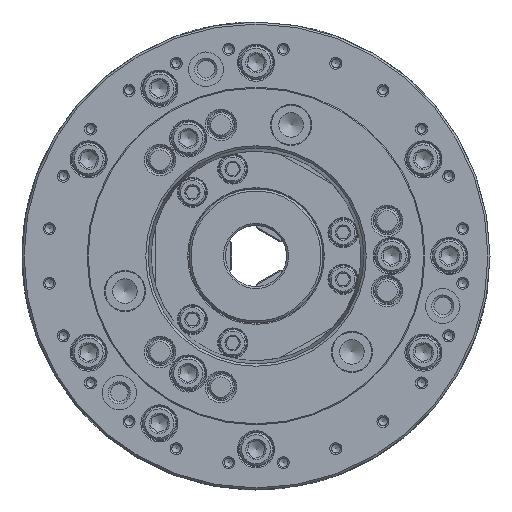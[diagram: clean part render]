
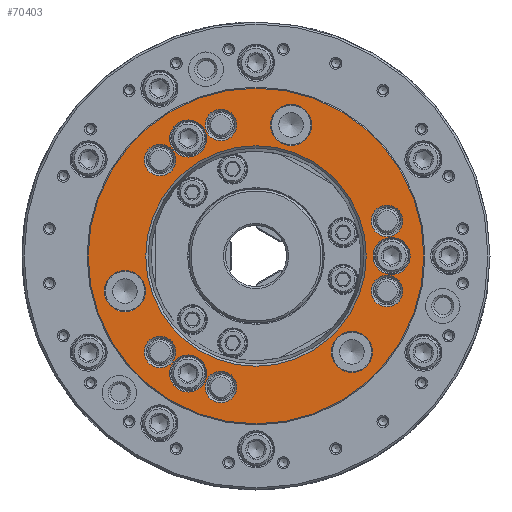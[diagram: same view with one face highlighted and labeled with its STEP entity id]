
A CAD part, left-side view. The second image highlights one B-rep face of the part: STEP entity #70403.
In plain terms, the highlighted planar face has unit normal (-1, 0, 0).
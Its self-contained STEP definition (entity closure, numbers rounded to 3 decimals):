
#149 = EDGE_LOOP ( 'NONE', ( #28190 ) ) ;
#663 = AXIS2_PLACEMENT_3D ( 'NONE', #32393, #72827, #65329 ) ;
#1171 = CIRCLE ( 'NONE', #85712, 7.75 ) ;
#2170 = CARTESIAN_POINT ( 'NONE',  ( -110., 47.146, 54.896 ) ) ;
#4060 = CARTESIAN_POINT ( 'NONE',  ( -110., 0., 0. ) ) ;
#4176 = ORIENTED_EDGE ( 'NONE', *, *, #24271, .F. ) ;
#4582 = DIRECTION ( 'NONE',  ( -1., 0., 0. ) ) ;
#5377 = FACE_BOUND ( 'NONE', #57115, .T. ) ;
#5971 = EDGE_LOOP ( 'NONE', ( #76017 ) ) ;
#7953 = AXIS2_PLACEMENT_3D ( 'NONE', #50863, #52983, #92912 ) ;
#8324 = VERTEX_POINT ( 'NONE', #66096 ) ;
#9066 = ORIENTED_EDGE ( 'NONE', *, *, #36291, .F. ) ;
#9165 = DIRECTION ( 'NONE',  ( -1., 0., 0. ) ) ;
#9303 = ORIENTED_EDGE ( 'NONE', *, *, #51223, .T. ) ;
#10959 = EDGE_CURVE ( 'NONE', #99822, #99822, #85960, .T. ) ;
#11854 = AXIS2_PLACEMENT_3D ( 'NONE', #57243, #9165, #32422 ) ;
#13149 = CARTESIAN_POINT ( 'NONE',  ( -110., 47.146, 47.146 ) ) ;
#13548 = EDGE_LOOP ( 'NONE', ( #4176 ) ) ;
#14035 = FACE_BOUND ( 'NONE', #73103, .T. ) ;
#14724 = CARTESIAN_POINT ( 'NONE',  ( -110., -47.146, -47.146 ) ) ;
#14947 = CARTESIAN_POINT ( 'NONE',  ( -110., -66.675, 0. ) ) ;
#15512 = CIRCLE ( 'NONE', #25854, 10.13 ) ;
#15794 = EDGE_CURVE ( 'NONE', #19863, #19863, #91823, .T. ) ;
#17203 = AXIS2_PLACEMENT_3D ( 'NONE', #101717, #69800, #35349 ) ;
#18351 = EDGE_LOOP ( 'NONE', ( #67990 ) ) ;
#19041 = EDGE_CURVE ( 'NONE', #63552, #63552, #92380, .T. ) ;
#19374 = ORIENTED_EDGE ( 'NONE', *, *, #19041, .T. ) ;
#19493 = AXIS2_PLACEMENT_3D ( 'NONE', #100836, #26887, #59813 ) ;
#19863 = VERTEX_POINT ( 'NONE', #60386 ) ;
#20065 = AXIS2_PLACEMENT_3D ( 'NONE', #13149, #21784, #87605 ) ;
#20635 = CIRCLE ( 'NONE', #72314, 7.75 ) ;
#21784 = DIRECTION ( 'NONE',  ( -1., 0., 0. ) ) ;
#23035 = EDGE_CURVE ( 'NONE', #70554, #70554, #106897, .T. ) ;
#23541 = CIRCLE ( 'NONE', #20065, 7.75 ) ;
#24271 = EDGE_CURVE ( 'NONE', #104545, #104545, #20635, .T. ) ;
#25854 = AXIS2_PLACEMENT_3D ( 'NONE', #55037, #94983, #70122 ) ;
#26887 = DIRECTION ( 'NONE',  ( -1., 0., 0. ) ) ;
#27060 = CIRCLE ( 'NONE', #68397, 82.5 ) ;
#27186 = CIRCLE ( 'NONE', #47947, 10.13 ) ;
#28149 = CIRCLE ( 'NONE', #19493, 7.75 ) ;
#28190 = ORIENTED_EDGE ( 'NONE', *, *, #10959, .F. ) ;
#29569 = CARTESIAN_POINT ( 'NONE',  ( -110., 47.146, -39.396 ) ) ;
#29708 = CARTESIAN_POINT ( 'NONE',  ( -110., 64.403, -27.387 ) ) ;
#30268 = EDGE_LOOP ( 'NONE', ( #95761 ) ) ;
#30961 = EDGE_LOOP ( 'NONE', ( #73667 ) ) ;
#32393 = CARTESIAN_POINT ( 'NONE',  ( -110., 82.5, 0. ) ) ;
#32422 = DIRECTION ( 'NONE',  ( 0., 0., 1. ) ) ;
#33311 = EDGE_CURVE ( 'NONE', #94208, #94208, #1171, .T. ) ;
#33465 = EDGE_CURVE ( 'NONE', #51085, #51085, #27186, .T. ) ;
#33645 = AXIS2_PLACEMENT_3D ( 'NONE', #14947, #47905, #106714 ) ;
#34292 = EDGE_LOOP ( 'NONE', ( #101612 ) ) ;
#35349 = DIRECTION ( 'NONE',  ( 0., 0., 1. ) ) ;
#35421 = VERTEX_POINT ( 'NONE', #76368 ) ;
#36291 = EDGE_CURVE ( 'NONE', #35421, #35421, #71987, .T. ) ;
#36340 = DIRECTION ( 'NONE',  ( 0., 0., 1. ) ) ;
#36377 = DIRECTION ( 'NONE',  ( 0., 0., 1. ) ) ;
#37950 = CARTESIAN_POINT ( 'NONE',  ( -110., -64.403, -17.257 ) ) ;
#38897 = FACE_BOUND ( 'NONE', #77751, .T. ) ;
#39391 = CARTESIAN_POINT ( 'NONE',  ( -110., 33.337, -57.742 ) ) ;
#39978 = FACE_BOUND ( 'NONE', #30961, .T. ) ;
#40517 = FACE_BOUND ( 'NONE', #86831, .T. ) ;
#43529 = CARTESIAN_POINT ( 'NONE',  ( -110., -55.919, -42.081 ) ) ;
#45309 = DIRECTION ( 'NONE',  ( 0., -0.866, 0.5 ) ) ;
#46802 = EDGE_LOOP ( 'NONE', ( #19374 ) ) ;
#46901 = ORIENTED_EDGE ( 'NONE', *, *, #102659, .F. ) ;
#47532 = FACE_BOUND ( 'NONE', #149, .T. ) ;
#47905 = DIRECTION ( 'NONE',  ( -1., 0., 0. ) ) ;
#47907 = CARTESIAN_POINT ( 'NONE',  ( -110., -8.484, 69.468 ) ) ;
#47947 = AXIS2_PLACEMENT_3D ( 'NONE', #14724, #83723, #45309 ) ;
#50863 = CARTESIAN_POINT ( 'NONE',  ( -110., -17.257, 64.403 ) ) ;
#51085 = VERTEX_POINT ( 'NONE', #43529 ) ;
#51223 = EDGE_CURVE ( 'NONE', #8324, #8324, #27060, .T. ) ;
#52165 = DIRECTION ( 'NONE',  ( 0., 0., 1. ) ) ;
#52983 = DIRECTION ( 'NONE',  ( 1., 0., 0. ) ) ;
#53814 = AXIS2_PLACEMENT_3D ( 'NONE', #37950, #60642, #36340 ) ;
#54635 = EDGE_LOOP ( 'NONE', ( #9303 ) ) ;
#55037 = CARTESIAN_POINT ( 'NONE',  ( -110., 64.403, -17.257 ) ) ;
#55994 = CARTESIAN_POINT ( 'NONE',  ( -110., 0., 54.189 ) ) ;
#57115 = EDGE_LOOP ( 'NONE', ( #72115 ) ) ;
#57243 = CARTESIAN_POINT ( 'NONE',  ( -110., 33.338, 57.742 ) ) ;
#59551 = CARTESIAN_POINT ( 'NONE',  ( -110., -66.675, 9.1 ) ) ;
#59813 = DIRECTION ( 'NONE',  ( 0., 0., 1. ) ) ;
#60386 = CARTESIAN_POINT ( 'NONE',  ( -110., 33.337, -48.642 ) ) ;
#60642 = DIRECTION ( 'NONE',  ( -1., 0., 0. ) ) ;
#62845 = CARTESIAN_POINT ( 'NONE',  ( -110., 47.146, -47.146 ) ) ;
#63552 = VERTEX_POINT ( 'NONE', #47907 ) ;
#63907 = DIRECTION ( 'NONE',  ( -1., 0., 0. ) ) ;
#64207 = DIRECTION ( 'NONE',  ( 0., 0., 1. ) ) ;
#64251 = FACE_BOUND ( 'NONE', #5971, .T. ) ;
#64377 = DIRECTION ( 'NONE',  ( 0., 0., 1. ) ) ;
#64894 = VERTEX_POINT ( 'NONE', #81040 ) ;
#65329 = DIRECTION ( 'NONE',  ( 0., 0., -1. ) ) ;
#66096 = CARTESIAN_POINT ( 'NONE',  ( -110., 0., 82.5 ) ) ;
#66566 = VERTEX_POINT ( 'NONE', #59551 ) ;
#67734 = ORIENTED_EDGE ( 'NONE', *, *, #91304, .T. ) ;
#67990 = ORIENTED_EDGE ( 'NONE', *, *, #23035, .F. ) ;
#68397 = AXIS2_PLACEMENT_3D ( 'NONE', #4060, #4582, #52165 ) ;
#68722 = CARTESIAN_POINT ( 'NONE',  ( -110., 17.257, -64.403 ) ) ;
#68978 = EDGE_CURVE ( 'NONE', #90234, #90234, #28149, .T. ) ;
#69613 = VERTEX_POINT ( 'NONE', #29708 ) ;
#69785 = CIRCLE ( 'NONE', #33645, 9.1 ) ;
#69800 = DIRECTION ( 'NONE',  ( -1., 0., 0. ) ) ;
#70122 = DIRECTION ( 'NONE',  ( 0., 0., -1. ) ) ;
#70403 = ADVANCED_FACE ( 'NONE', ( #81460, #96618, #105262, #64251, #38897, #87956, #47532, #40517, #73363, #5377, #14035, #71760, #89046, #39978 ), #106318, .F. ) ;
#70554 = VERTEX_POINT ( 'NONE', #55994 ) ;
#71760 = FACE_BOUND ( 'NONE', #18351, .T. ) ;
#71987 = CIRCLE ( 'NONE', #85786, 7.75 ) ;
#72044 = EDGE_CURVE ( 'NONE', #64894, #64894, #83029, .T. ) ;
#72115 = ORIENTED_EDGE ( 'NONE', *, *, #68978, .F. ) ;
#72314 = AXIS2_PLACEMENT_3D ( 'NONE', #62845, #63907, #81129 ) ;
#72422 = CARTESIAN_POINT ( 'NONE',  ( -110., 17.257, 64.403 ) ) ;
#72827 = DIRECTION ( 'NONE',  ( 1., 0., 0. ) ) ;
#73103 = EDGE_LOOP ( 'NONE', ( #46901 ) ) ;
#73329 = CARTESIAN_POINT ( 'NONE',  ( -110., 33.338, 66.842 ) ) ;
#73363 = FACE_BOUND ( 'NONE', #34292, .T. ) ;
#73667 = ORIENTED_EDGE ( 'NONE', *, *, #78953, .F. ) ;
#76017 = ORIENTED_EDGE ( 'NONE', *, *, #33311, .F. ) ;
#76282 = AXIS2_PLACEMENT_3D ( 'NONE', #39391, #104664, #64207 ) ;
#76368 = CARTESIAN_POINT ( 'NONE',  ( -110., 17.257, 72.153 ) ) ;
#77336 = DIRECTION ( 'NONE',  ( -1., 0., 0. ) ) ;
#77751 = EDGE_LOOP ( 'NONE', ( #9066 ) ) ;
#78953 = EDGE_CURVE ( 'NONE', #92870, #92870, #23541, .T. ) ;
#81040 = CARTESIAN_POINT ( 'NONE',  ( -110., -64.403, -9.507 ) ) ;
#81129 = DIRECTION ( 'NONE',  ( 0., 0., 1. ) ) ;
#81460 = FACE_BOUND ( 'NONE', #46802, .T. ) ;
#82086 = CARTESIAN_POINT ( 'NONE',  ( -110., -64.403, 25.007 ) ) ;
#83029 = CIRCLE ( 'NONE', #53814, 7.75 ) ;
#83723 = DIRECTION ( 'NONE',  ( 1., 0., 0. ) ) ;
#85712 = AXIS2_PLACEMENT_3D ( 'NONE', #68722, #77336, #36377 ) ;
#85786 = AXIS2_PLACEMENT_3D ( 'NONE', #72422, #87543, #64377 ) ;
#85960 = CIRCLE ( 'NONE', #11854, 9.1 ) ;
#86831 = EDGE_LOOP ( 'NONE', ( #67734 ) ) ;
#87543 = DIRECTION ( 'NONE',  ( -1., 0., 0. ) ) ;
#87605 = DIRECTION ( 'NONE',  ( 0., 0., 1. ) ) ;
#87956 = FACE_BOUND ( 'NONE', #30268, .T. ) ;
#89046 = FACE_OUTER_BOUND ( 'NONE', #54635, .T. ) ;
#90234 = VERTEX_POINT ( 'NONE', #82086 ) ;
#91304 = EDGE_CURVE ( 'NONE', #69613, #69613, #15512, .T. ) ;
#91823 = CIRCLE ( 'NONE', #76282, 9.1 ) ;
#92380 = CIRCLE ( 'NONE', #7953, 10.13 ) ;
#92870 = VERTEX_POINT ( 'NONE', #2170 ) ;
#92912 = DIRECTION ( 'NONE',  ( 0., 0.866, 0.5 ) ) ;
#93225 = EDGE_LOOP ( 'NONE', ( #105068 ) ) ;
#93681 = CARTESIAN_POINT ( 'NONE',  ( -110., 17.257, -56.653 ) ) ;
#94208 = VERTEX_POINT ( 'NONE', #93681 ) ;
#94983 = DIRECTION ( 'NONE',  ( 1., 0., 0. ) ) ;
#95761 = ORIENTED_EDGE ( 'NONE', *, *, #15794, .F. ) ;
#96618 = FACE_BOUND ( 'NONE', #93225, .T. ) ;
#99822 = VERTEX_POINT ( 'NONE', #73329 ) ;
#100836 = CARTESIAN_POINT ( 'NONE',  ( -110., -64.403, 17.257 ) ) ;
#101612 = ORIENTED_EDGE ( 'NONE', *, *, #72044, .F. ) ;
#101717 = CARTESIAN_POINT ( 'NONE',  ( -110., 0., 0. ) ) ;
#102659 = EDGE_CURVE ( 'NONE', #66566, #66566, #69785, .T. ) ;
#104545 = VERTEX_POINT ( 'NONE', #29569 ) ;
#104664 = DIRECTION ( 'NONE',  ( -1., 0., 0. ) ) ;
#105068 = ORIENTED_EDGE ( 'NONE', *, *, #33465, .T. ) ;
#105262 = FACE_BOUND ( 'NONE', #13548, .T. ) ;
#106318 = PLANE ( 'NONE',  #663 ) ;
#106714 = DIRECTION ( 'NONE',  ( 0., 0., 1. ) ) ;
#106897 = CIRCLE ( 'NONE', #17203, 54.189 ) ;
